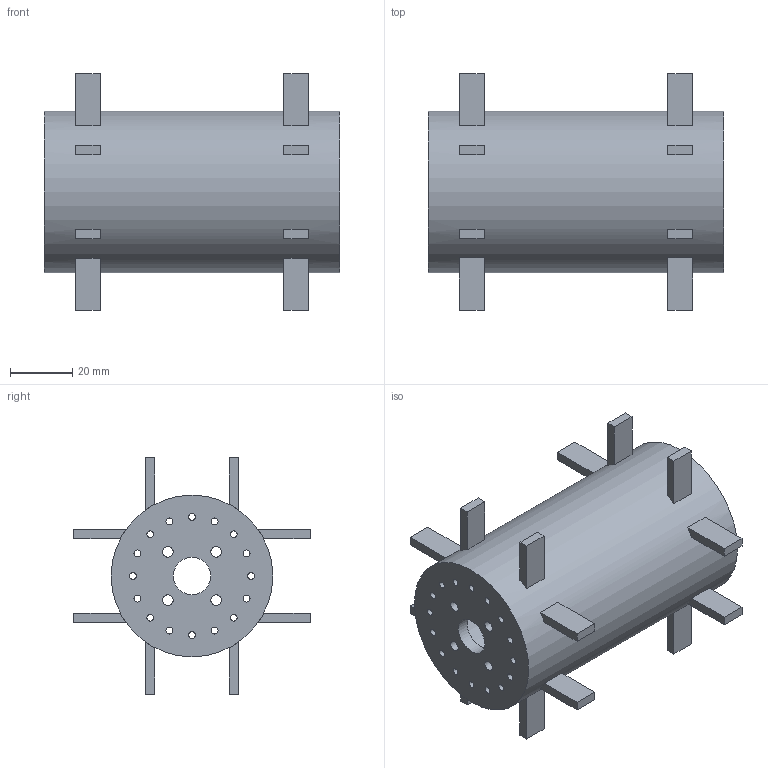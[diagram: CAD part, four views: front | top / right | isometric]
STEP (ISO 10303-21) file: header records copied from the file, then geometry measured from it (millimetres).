
FILE_DESCRIPTION(('Open CASCADE Model'),'2;1');
FILE_NAME('Open CASCADE Shape Model','2026-10-25T05:18:02',('Author'),( 'Open CASCADE'),'Open CASCADE STEP processor 7.9','Open CASCADE 7.9' ,'Unknown');
FILE_SCHEMA(('AUTOMOTIVE_DESIGN { 1 0 10303 214 1 1 1 1 }'));
Length unit declared in the file: millimetre
Products named in the file (1): Open CASCADE STEP translator 7.9 62
Bounding box: 95 x 76 x 76 mm (x, y, z)
Volume: 73853.2 mm3; surface area: 41029.5 mm2
Topology: 1 solids, 1 shells, 128 faces, 324 edges, 216 vertices
Faces by surface type: plane 84, cylinder 44
Full cylindrical faces by diameter (mm): 2.2 x32, 3.4 x8, 12 x2, 44 x1, 52 x1
Entity records: 8274 total; most frequent: DIRECTION 1350, CARTESIAN_POINT 1317, LINE 732, VECTOR 732, ORIENTED_EDGE 648, PCURVE 648, DEFINITIONAL_REPRESENTATION 648, EDGE_CURVE 324
